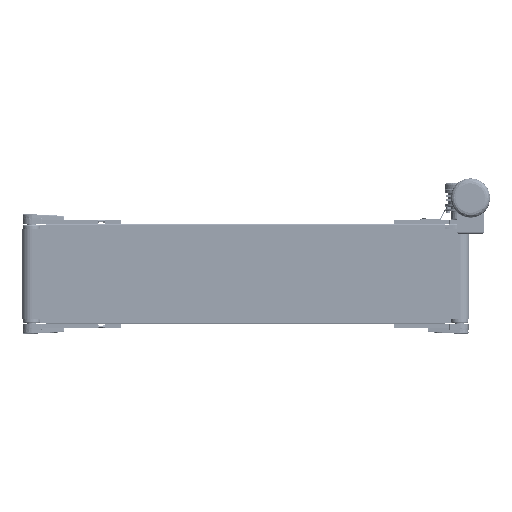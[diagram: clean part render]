
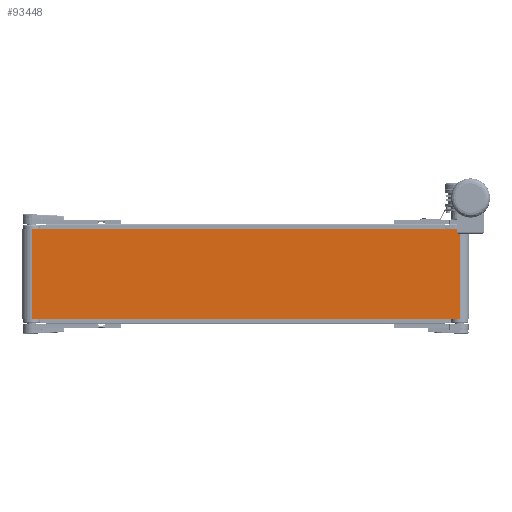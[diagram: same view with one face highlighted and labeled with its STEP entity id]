
A CAD part, front view. The second image highlights one B-rep face of the part: STEP entity #93448.
In plain terms, the highlighted planar face has unit normal (0, -1, 0).
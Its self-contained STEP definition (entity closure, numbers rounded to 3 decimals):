
#1581 = VERTEX_POINT ( 'NONE', #73086 ) ;
#9538 = LINE ( 'NONE', #86653, #118739 ) ;
#11410 = LINE ( 'NONE', #140683, #130974 ) ;
#25528 = LINE ( 'NONE', #57682, #62222 ) ;
#28215 = ORIENTED_EDGE ( 'NONE', *, *, #51146, .F. ) ;
#28365 = ORIENTED_EDGE ( 'NONE', *, *, #59064, .T. ) ;
#29439 = AXIS2_PLACEMENT_3D ( 'NONE', #118932, #32503, #64650 ) ;
#30519 = CARTESIAN_POINT ( 'NONE',  ( -600., -27., -125. ) ) ;
#32503 = DIRECTION ( 'NONE',  ( 0., 1., 0. ) ) ;
#33197 = VERTEX_POINT ( 'NONE', #98111 ) ;
#33208 = FACE_OUTER_BOUND ( 'NONE', #51937, .T. ) ;
#45052 = CARTESIAN_POINT ( 'NONE',  ( -600., -27., -125. ) ) ;
#51146 = EDGE_CURVE ( 'NONE', #104102, #1581, #9538, .T. ) ;
#51937 = EDGE_LOOP ( 'NONE', ( #28365, #60326, #28215, #52337 ) ) ;
#52337 = ORIENTED_EDGE ( 'NONE', *, *, #72620, .T. ) ;
#56253 = DIRECTION ( 'NONE',  ( 0., 0., -1. ) ) ;
#57682 = CARTESIAN_POINT ( 'NONE',  ( 600., -27., 125. ) ) ;
#57914 = DIRECTION ( 'NONE',  ( 1., 0., 0. ) ) ;
#59064 = EDGE_CURVE ( 'NONE', #72867, #33197, #77932, .T. ) ;
#60232 = CARTESIAN_POINT ( 'NONE',  ( -600., -27., 125. ) ) ;
#60326 = ORIENTED_EDGE ( 'NONE', *, *, #78478, .F. ) ;
#62222 = VECTOR ( 'NONE', #56253, 1000. ) ;
#64650 = DIRECTION ( 'NONE',  ( 0., 0., 1. ) ) ;
#72620 = EDGE_CURVE ( 'NONE', #104102, #72867, #11410, .T. ) ;
#72867 = VERTEX_POINT ( 'NONE', #30519 ) ;
#73086 = CARTESIAN_POINT ( 'NONE',  ( 600., -27., 125. ) ) ;
#75358 = PLANE ( 'NONE',  #29439 ) ;
#77932 = LINE ( 'NONE', #45052, #124532 ) ;
#78478 = EDGE_CURVE ( 'NONE', #1581, #33197, #25528, .T. ) ;
#86653 = CARTESIAN_POINT ( 'NONE',  ( -600., -27., 125. ) ) ;
#93448 = ADVANCED_FACE ( 'NONE', ( #33208 ), #75358, .F. ) ;
#98111 = CARTESIAN_POINT ( 'NONE',  ( 600., -27., -125. ) ) ;
#104102 = VERTEX_POINT ( 'NONE', #60232 ) ;
#118739 = VECTOR ( 'NONE', #120210, 1000. ) ;
#118932 = CARTESIAN_POINT ( 'NONE',  ( -600., -27., 125. ) ) ;
#120210 = DIRECTION ( 'NONE',  ( 1., 0., 0. ) ) ;
#124532 = VECTOR ( 'NONE', #57914, 1000. ) ;
#130974 = VECTOR ( 'NONE', #132105, 1000. ) ;
#132105 = DIRECTION ( 'NONE',  ( 0., 0., -1. ) ) ;
#140683 = CARTESIAN_POINT ( 'NONE',  ( -600., -27., 125. ) ) ;
